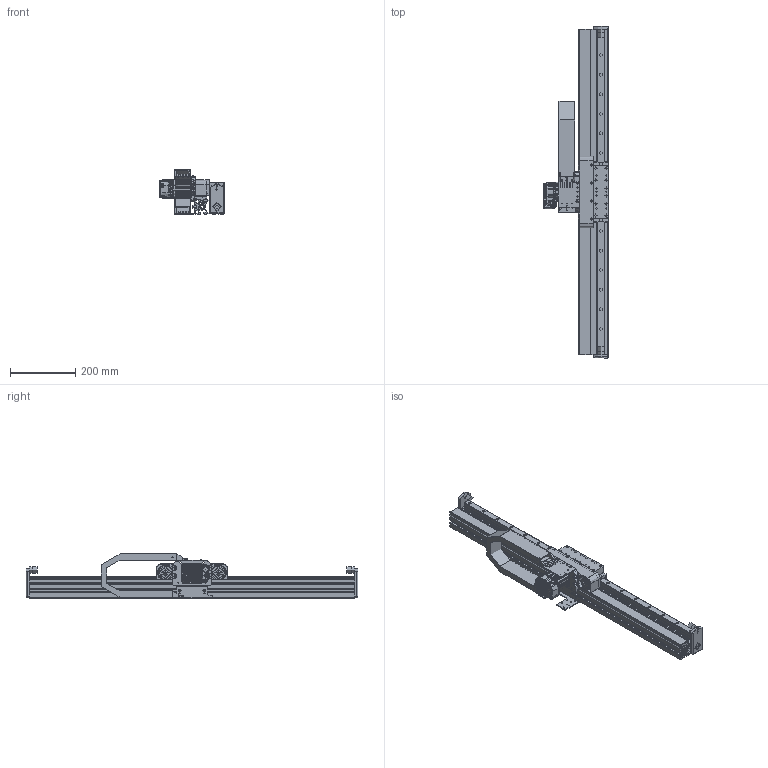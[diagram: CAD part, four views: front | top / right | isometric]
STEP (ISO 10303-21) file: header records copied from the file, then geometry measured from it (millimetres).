
FILE_DESCRIPTION( ( '' ), ' ' );
FILE_NAME( '/vol/tmp/translate-5227743362847726572/5c7ea73e8114d51714309366.step', '2019-03-05T16:43:47', ( '' ), ( '' ), ' ', ' ', ' ' );
FILE_SCHEMA( ( 'AUTOMOTIVE_DESIGN { 1 0 10303 214 1 1 1 1 }' ) );
Length unit declared in the file: metre
Products named in the file (85): RAIL FASTENERS <5>; 102684-001 BOSCH 10mm T-BLOCK M5; 20mm BEARING RAIL CAP; 100001-8065 M5-.80 X 25 ALLOY SHCS; TRAY FASTENERS <4>; #7483; #7491; RAIL FASTENERS <8>; RAIL FASTENERS <3>; TRAY FASTENERS <5>; RAIL FASTENERS <2>; RAIL FASTENERS <10>; RAIL FASTENERS <9>; RAIL FASTENERS <7>; RAIL FASTENERS <14>; TRAY FASTENERS <1>; RAIL FASTENERS <11>; RAIL FASTENERS <17>; RAIL FASTENERS <15>; RAIL FASTENERS <6>; RAIL FASTENERS <4>; RAIL FASTENERS <16>; TRAY FASTENERS <2>; RAIL FASTENERS <12>; RAIL FASTENERS <1>; TRAY FASTENERS <3>; RAIL FASTENERS <13>; CPM-23XX & PINION <1>; 100013-008 M4 X 6 SS SET SCREW; GENERIC CPM 232X; 104885-002 SBL-M PINION GEAR .375 BORE; TRAY <1>; 102610-005 VHB TAPE 1-1/4 WIDE; 102656-1000 SBL-M BELT TRAY; 102567-001 T5 X 32mm BELTING; 104587-001 SBL-M DYNAMIC BEARING ASSEMBLY <2>; 102638-005 5202 SHIELDED DOUBLE ROW BALL BEARING; 103126-001 SBL-M BEARING SHAFT; RAIL <1>; 106888-001 20mm RAIL COVER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
Assembly tree (199 placements, depth 5):
  Assem1
    102977-001 LINKS
    107170-001 SBL-M-LT DRIVE BLOCK ASSEMBLY WITH COVER <1>
      100001-068 M5-.80 X 40 SS SHCS  x4
      100021-061 RADIAL BEARING 6302ZZ  x4
      100001-061 M5-.80 X 12 SS SHCS  x2
      100081-015 0.07 W X 0.551 ID BUN-N O-RING  x6
      105427-001 SBL-M-LT DRIVE MOUNT
      100003-048 M8 SS FENDER WASHER  x2
      100006-004 M4-.70 X 8 SS BHCS  x4
      105323-001 KEY 4mm SQUARE X 16mm LONG
      100006-013 M8 X 12 SS BHCS  x2
      105446-001 SBL-M LOOPTRACK BELT COVER
      102653-002 BEARING SPACER  x2
      103757-100 T5 BELT 100T X 32 WIDE
      104587-001 SBL-M DYNAMIC BEARING ASSEMBLY <2>
        102638-005 5202 SHIELDED DOUBLE ROW BALL BEARING  x2
        103126-001 SBL-M BEARING SHAFT
      104587-001 SBL-M DYNAMIC BEARING ASSEMBLY <1>
        102638-005 5202 SHIELDED DOUBLE ROW BALL BEARING  x2
        103126-001 SBL-M BEARING SHAFT
    1000 CHASSIS <1>
      102576-1000 45-SERIES PROFILE 45X90H
      RAIL <1>
        106888-001 20mm RAIL COVER
        102732-990 20mm STANDARD GUIDE RAIL
        RAIL FASTENERS <11>
          100001-8065 M5-.80 X 25 ALLOY SHCS
          102684-001 BOSCH 10mm T-BLOCK M5
          20mm BEARING RAIL CAP
        RAIL FASTENERS <12>
          20mm BEARING RAIL CAP
          100001-8065 M5-.80 X 25 ALLOY SHCS
          102684-001 BOSCH 10mm T-BLOCK M5
        RAIL FASTENERS <17>
          20mm BEARING RAIL CAP
          100001-8065 M5-.80 X 25 ALLOY SHCS
          102684-001 BOSCH 10mm T-BLOCK M5
        RAIL FASTENERS <1>
          102684-001 BOSCH 10mm T-BLOCK M5
          20mm BEARING RAIL CAP
          100001-8065 M5-.80 X 25 ALLOY SHCS
        RAIL FASTENERS <9>
          20mm BEARING RAIL CAP
          102684-001 BOSCH 10mm T-BLOCK M5
          100001-8065 M5-.80 X 25 ALLOY SHCS
        RAIL FASTENERS <10>
          100001-8065 M5-.80 X 25 ALLOY SHCS
          20mm BEARING RAIL CAP
          102684-001 BOSCH 10mm T-BLOCK M5
        RAIL FASTENERS <2>
          100001-8065 M5-.80 X 25 ALLOY SHCS
          20mm BEARING RAIL CAP
          102684-001 BOSCH 10mm T-BLOCK M5
        RAIL FASTENERS <14>
          20mm BEARING RAIL CAP
          100001-8065 M5-.80 X 25 ALLOY SHCS
          102684-001 BOSCH 10mm T-BLOCK M5
        RAIL FASTENERS <15>
          20mm BEARING RAIL CAP
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Bounding box: 198.16 x 1019.05 x 135.99 mm (x, y, z)
Topology: 186 solids, 193 shells, 8082 faces, 20274 edges, 12789 vertices
Faces by surface type: plane 3129, cylinder 2224, bspline 1047, torus 886, cone 701, sphere 53, extrusion 42
Full cylindrical faces by diameter (mm): 1.587 x1, 1.6 x1, 1.846 x1, 2 x1, 2.096 x1, 2.44 x114, 2.5 x24, 2.54 x2, 2.6 x4, 2.66 x4, 3 x12, 3.048 x4, 3.09 x4, 3.175 x2, 3.2 x8, 3.3 x6, 3.4 x2, 3.454 x5, 4 x14, 4.166 x5, 4.2 x13, 4.216 x16, 4.5 x9, 4.8 x4, 5 x35, 5.004 x37, 5.105 x2, 5.156 x5, 5.2 x4, 5.5 x36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
Entity records: 324100 total; most frequent: CARTESIAN_POINT 126787, ORIENTED_EDGE 30302, DIRECTION 29881, EDGE_CURVE 15151, AXIS2_PLACEMENT_3D 11676, VERTEX_POINT 9930, EDGE_LOOP 7676, FACE_OUTER_BOUND 6920
